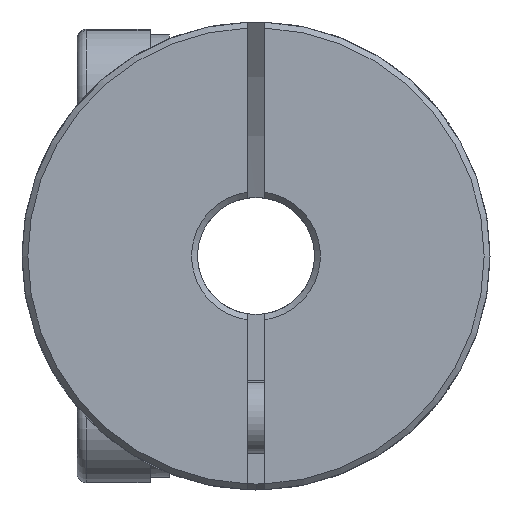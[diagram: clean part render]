
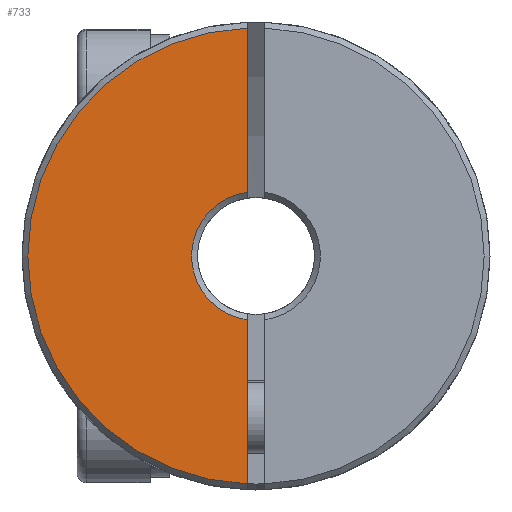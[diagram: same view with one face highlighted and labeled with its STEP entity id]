
A CAD part, front view. The second image highlights one B-rep face of the part: STEP entity #733.
In plain terms, the highlighted planar face has unit normal (0, -1, 0).
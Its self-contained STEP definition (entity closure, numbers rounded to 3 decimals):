
#48 = DIRECTION ( 'NONE',  ( 0., 0., -1. ) ) ;
#93 = ORIENTED_EDGE ( 'NONE', *, *, #6807, .T. ) ;
#300 = AXIS2_PLACEMENT_3D ( 'NONE', #6608, #3888, #6710 ) ;
#448 = EDGE_CURVE ( 'NONE', #1669, #6686, #488, .T. ) ;
#488 = CIRCLE ( 'NONE', #7043, 2.2 ) ;
#593 = CARTESIAN_POINT ( 'NONE',  ( 0., -15.02, 0. ) ) ;
#733 = ADVANCED_FACE ( 'NONE', ( #7059 ), #5933, .F. ) ;
#1543 = EDGE_LOOP ( 'NONE', ( #7584, #93, #3948, #2727 ) ) ;
#1569 = VERTEX_POINT ( 'NONE', #4677 ) ;
#1669 = VERTEX_POINT ( 'NONE', #2508 ) ;
#1695 = LINE ( 'NONE', #6187, #4637 ) ;
#1733 = CARTESIAN_POINT ( 'NONE',  ( -0.3, -15.02, 2.179 ) ) ;
#2508 = CARTESIAN_POINT ( 'NONE',  ( -0.3, -15.02, -2.179 ) ) ;
#2520 = EDGE_CURVE ( 'NONE', #1669, #1569, #1695, .T. ) ;
#2727 = ORIENTED_EDGE ( 'NONE', *, *, #448, .T. ) ;
#3179 = DIRECTION ( 'NONE',  ( 0., 0., 1. ) ) ;
#3888 = DIRECTION ( 'NONE',  ( 0., 1., 0. ) ) ;
#3948 = ORIENTED_EDGE ( 'NONE', *, *, #2520, .F. ) ;
#4033 = VERTEX_POINT ( 'NONE', #4250 ) ;
#4250 = CARTESIAN_POINT ( 'NONE',  ( -0.3, -15.02, 7.794 ) ) ;
#4419 = DIRECTION ( 'NONE',  ( 0., 0., -1. ) ) ;
#4637 = VECTOR ( 'NONE', #4419, 1000. ) ;
#4677 = CARTESIAN_POINT ( 'NONE',  ( -0.3, -15.02, -7.794 ) ) ;
#4789 = CARTESIAN_POINT ( 'NONE',  ( -0.3, -15.02, 0. ) ) ;
#4951 = DIRECTION ( 'NONE',  ( 0., -1., 0. ) ) ;
#5284 = VECTOR ( 'NONE', #48, 1000. ) ;
#5453 = DIRECTION ( 'NONE',  ( 0., 1., 0. ) ) ;
#5818 = AXIS2_PLACEMENT_3D ( 'NONE', #593, #4951, #3179 ) ;
#5933 = PLANE ( 'NONE',  #300 ) ;
#6187 = CARTESIAN_POINT ( 'NONE',  ( -0.3, -15.02, 0. ) ) ;
#6608 = CARTESIAN_POINT ( 'NONE',  ( 0., -15.02, 0. ) ) ;
#6616 = CARTESIAN_POINT ( 'NONE',  ( 0., -15.02, 0. ) ) ;
#6686 = VERTEX_POINT ( 'NONE', #1733 ) ;
#6710 = DIRECTION ( 'NONE',  ( 0., 0., 1. ) ) ;
#6807 = EDGE_CURVE ( 'NONE', #4033, #1569, #7403, .T. ) ;
#6847 = LINE ( 'NONE', #4789, #5284 ) ;
#7043 = AXIS2_PLACEMENT_3D ( 'NONE', #6616, #5453, #7277 ) ;
#7059 = FACE_OUTER_BOUND ( 'NONE', #1543, .T. ) ;
#7180 = EDGE_CURVE ( 'NONE', #4033, #6686, #6847, .T. ) ;
#7277 = DIRECTION ( 'NONE',  ( 0., 0., 1. ) ) ;
#7403 = CIRCLE ( 'NONE', #5818, 7.8 ) ;
#7584 = ORIENTED_EDGE ( 'NONE', *, *, #7180, .F. ) ;
